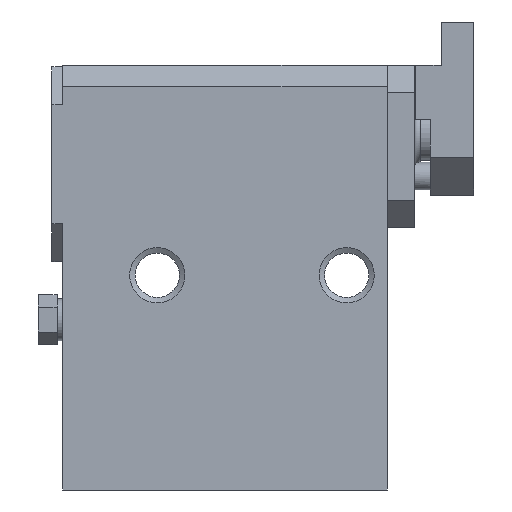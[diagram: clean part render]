
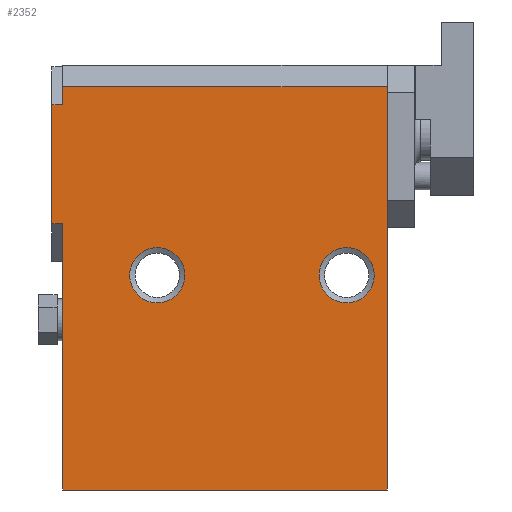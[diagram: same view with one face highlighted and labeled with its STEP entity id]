
A CAD part, left-side view. The second image highlights one B-rep face of the part: STEP entity #2352.
In plain terms, the highlighted planar face has unit normal (-1, 0, 0).
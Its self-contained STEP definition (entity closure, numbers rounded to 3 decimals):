
#20=LINE('',#3456,#232);
#26=LINE('',#3468,#238);
#42=LINE('',#3498,#254);
#43=LINE('',#3501,#255);
#44=LINE('',#3503,#256);
#45=LINE('',#3505,#257);
#46=LINE('',#3507,#258);
#47=LINE('',#3508,#259);
#232=VECTOR('',#2772,2.);
#238=VECTOR('',#2780,2.);
#254=VECTOR('',#2808,22.);
#255=VECTOR('',#2811,49.2);
#256=VECTOR('',#2812,60.);
#257=VECTOR('',#2813,74.5);
#258=VECTOR('',#2814,60.);
#259=VECTOR('',#2815,3.3);
#468=PLANE('',#2516);
#562=FACE_BOUND('',#798,.T.);
#563=FACE_BOUND('',#799,.T.);
#640=FACE_OUTER_BOUND('',#797,.T.);
#797=EDGE_LOOP('',(#1629,#1630,#1631,#1632,#1633,#1634,#1635,#1636));
#798=EDGE_LOOP('',(#1637));
#799=EDGE_LOOP('',(#1638));
#980=CIRCLE('',#2517,5.1);
#981=CIRCLE('',#2518,5.1);
#1065=VERTEX_POINT('',#3452);
#1067=VERTEX_POINT('',#3455);
#1070=VERTEX_POINT('',#3462);
#1072=VERTEX_POINT('',#3466);
#1081=VERTEX_POINT('',#3500);
#1082=VERTEX_POINT('',#3502);
#1083=VERTEX_POINT('',#3504);
#1084=VERTEX_POINT('',#3506);
#1085=VERTEX_POINT('',#3509);
#1086=VERTEX_POINT('',#3511);
#1280=EDGE_CURVE('',#1065,#1067,#20,.T.);
#1286=EDGE_CURVE('',#1070,#1072,#26,.T.);
#1302=EDGE_CURVE('',#1067,#1072,#42,.T.);
#1303=EDGE_CURVE('',#1081,#1065,#43,.T.);
#1304=EDGE_CURVE('',#1082,#1081,#44,.T.);
#1305=EDGE_CURVE('',#1083,#1082,#45,.T.);
#1306=EDGE_CURVE('',#1083,#1084,#46,.T.);
#1307=EDGE_CURVE('',#1070,#1084,#47,.T.);
#1308=EDGE_CURVE('',#1085,#1085,#980,.T.);
#1309=EDGE_CURVE('',#1086,#1086,#981,.T.);
#1629=ORIENTED_EDGE('',*,*,#1286,.T.);
#1630=ORIENTED_EDGE('',*,*,#1302,.F.);
#1631=ORIENTED_EDGE('',*,*,#1280,.F.);
#1632=ORIENTED_EDGE('',*,*,#1303,.F.);
#1633=ORIENTED_EDGE('',*,*,#1304,.F.);
#1634=ORIENTED_EDGE('',*,*,#1305,.F.);
#1635=ORIENTED_EDGE('',*,*,#1306,.T.);
#1636=ORIENTED_EDGE('',*,*,#1307,.F.);
#1637=ORIENTED_EDGE('',*,*,#1308,.F.);
#1638=ORIENTED_EDGE('',*,*,#1309,.F.);
#2352=ADVANCED_FACE('',(#640,#562,#563),#468,.T.);
#2516=AXIS2_PLACEMENT_3D('',#3499,#2809,#2810);
#2517=AXIS2_PLACEMENT_3D('',#3510,#2816,#2817);
#2518=AXIS2_PLACEMENT_3D('',#3512,#2818,#2819);
#2772=DIRECTION('',(0.,1.,0.));
#2780=DIRECTION('',(0.,1.,0.));
#2808=DIRECTION('',(0.,0.,1.));
#2809=DIRECTION('center_axis',(-1.,0.,0.));
#2810=DIRECTION('ref_axis',(0.,0.,1.));
#2811=DIRECTION('',(0.,0.,1.));
#2812=DIRECTION('',(0.,1.,0.));
#2813=DIRECTION('',(0.,0.,-1.));
#2814=DIRECTION('',(0.,1.,0.));
#2815=DIRECTION('',(0.,0.,1.));
#2816=DIRECTION('center_axis',(-1.,0.,0.));
#2817=DIRECTION('ref_axis',(0.,-1.,0.));
#2818=DIRECTION('center_axis',(-1.,0.,0.));
#2819=DIRECTION('ref_axis',(0.,-1.,0.));
#3452=CARTESIAN_POINT('',(-20.,30.,9.5));
#3455=CARTESIAN_POINT('',(-20.,32.,9.5));
#3456=CARTESIAN_POINT('',(-20.,30.,9.5));
#3462=CARTESIAN_POINT('',(-20.,30.,31.5));
#3466=CARTESIAN_POINT('',(-20.,32.,31.5));
#3468=CARTESIAN_POINT('',(-20.,30.,31.5));
#3498=CARTESIAN_POINT('',(-20.,32.,15.));
#3499=CARTESIAN_POINT('Origin',(-20.,30.,9.5));
#3500=CARTESIAN_POINT('',(-20.,30.,-39.7));
#3501=CARTESIAN_POINT('',(-20.,30.,-39.7));
#3502=CARTESIAN_POINT('',(-20.,-30.,-39.7));
#3503=CARTESIAN_POINT('',(-20.,-30.,-39.7));
#3504=CARTESIAN_POINT('',(-20.,-30.,34.8));
#3505=CARTESIAN_POINT('',(-20.,-30.,34.8));
#3506=CARTESIAN_POINT('',(-20.,30.,34.8));
#3507=CARTESIAN_POINT('',(-20.,-30.,34.8));
#3508=CARTESIAN_POINT('',(-20.,30.,-39.7));
#3509=CARTESIAN_POINT('',(-20.,-27.6,0.));
#3510=CARTESIAN_POINT('Origin',(-20.,-22.5,0.));
#3511=CARTESIAN_POINT('',(-20.,7.4,0.));
#3512=CARTESIAN_POINT('Origin',(-20.,12.5,0.));
